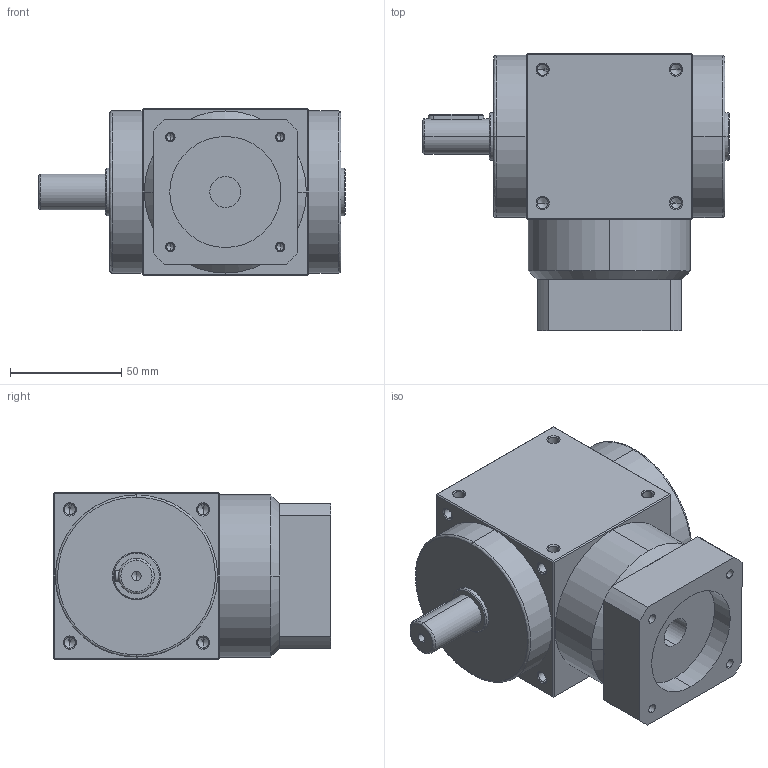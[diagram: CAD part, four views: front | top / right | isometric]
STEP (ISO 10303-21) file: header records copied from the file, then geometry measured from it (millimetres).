
FILE_DESCRIPTION (( 'STEP AP214' ), '1' );
FILE_NAME ('AT075-FR1-001 14-50-70-M5.STEP', '2024-06-04T05:40:43', ( '微软用户' ), ( '微软中国' ), 'SwSTEP 2.0', 'SolidWorks 2021', '' );
FILE_SCHEMA (( 'AUTOMOTIVE_DESIGN' ));
Length unit declared in the file: millimetre
Products named in the file (1): AT075-FR1-001 14-50-70-M5
Bounding box: 138 x 125 x 75 mm (x, y, z)
Volume: 728575.6 mm3; surface area: 61683.4 mm2
Topology: 1 solids, 1 shells, 275 faces, 680 edges, 371 vertices
Faces by surface type: cylinder 120, cone 98, plane 51, bspline 6
Entity records: 8802 total; most frequent: CARTESIAN_POINT 1783, DIRECTION 1268, ORIENTED_EDGE 1260, EDGE_CURVE 630, AXIS2_PLACEMENT_3D 488, VERTEX_POINT 371, EDGE_LOOP 313, LINE 292
